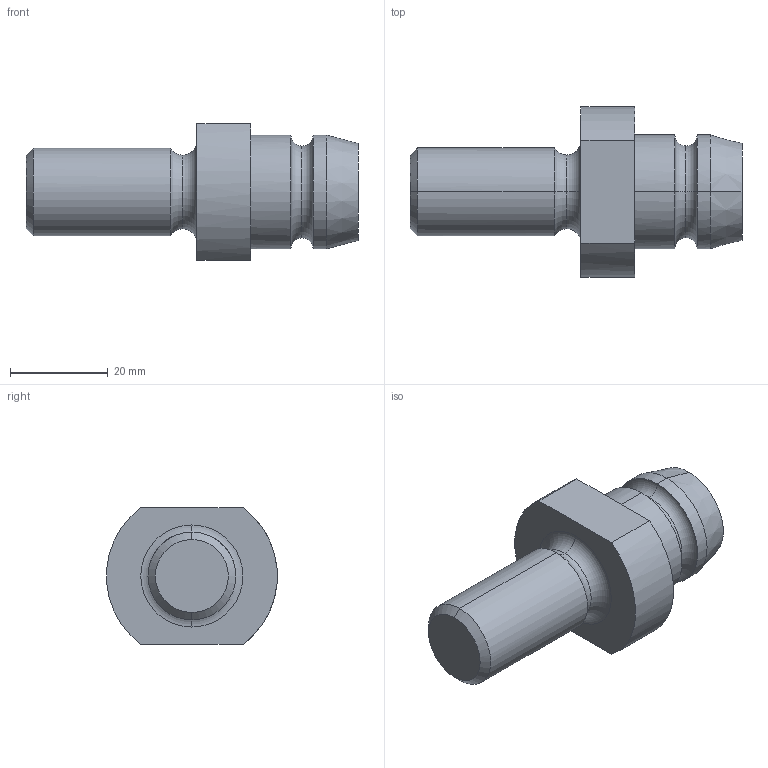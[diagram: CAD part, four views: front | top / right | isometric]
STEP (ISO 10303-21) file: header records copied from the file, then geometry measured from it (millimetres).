
FILE_DESCRIPTION(('CATIA V5 STEP Exchange'),'2;1');
FILE_NAME('C:\Users\Utente\Desktop\IO LAVORO\3D X SITO CF\X SITO\PLASTICA\AGS\AGS3411M18.stp','2021-02-21T19:32:30+00:00',('none'),('none'),'CATIA Version 5 Release 20 GA (IN-10)','CATIA V5 STEP AP203','none');
FILE_SCHEMA(('CONFIG_CONTROL_DESIGN'));
Length unit declared in the file: millimetre
Products named in the file (1): AGS3411M18
Bounding box: 68 x 34.93 x 28 mm (x, y, z)
Volume: 26534.5 mm3; surface area: 6430.9 mm2
Topology: 1 solids, 1 shells, 26 faces, 70 edges, 48 vertices
Faces by surface type: cylinder 8, torus 8, plane 6, cone 4
Entity records: 920 total; most frequent: CARTESIAN_POINT 235, ORIENTED_EDGE 140, DIRECTION 113, AXIS2_PLACEMENT_3D 70, EDGE_CURVE 70, VERTEX_POINT 48, CIRCLE 43, EDGE_LOOP 28
